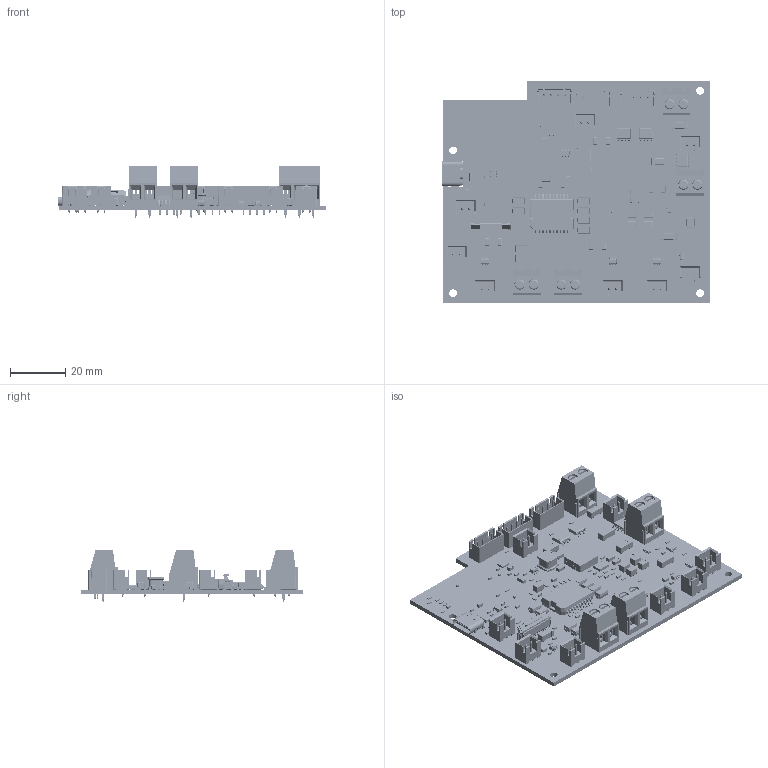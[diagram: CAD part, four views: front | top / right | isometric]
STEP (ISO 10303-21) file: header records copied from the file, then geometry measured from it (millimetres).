
FILE_DESCRIPTION(('Designed by EasyEDA Pro'),'2;1');
FILE_NAME('Open CASCADE Shape Model','2026-11-24T14:27:20',('Author'),( 'Open CASCADE'),'Open CASCADE STEP processor 7.8','Open CASCADE 7.8' ,'Unknown');
FILE_SCHEMA(('AUTOMOTIVE_DESIGN { 1 0 10303 214 1 1 1 1 }'));
Length unit declared in the file: millimetre
Products named in the file (185): EasyEDA PCB Model~psx2; Board~psx2; TopCopper~psx2; BottomCopper~psx2; TopSilkscreen~psx2; BottomSilkscreen~psx2; TopFpcStiffener~psx2; BottomFpcStiffener~psx2; U15~VSSOP-8_L2.3-W2.0-P0.50-LS3.1-BL~VSSOP-8_L2.3-W2.0-P0.50-LS3.1-BR~psx2; VSSOP-8_L2.3-W2.0-P0.50-LS3.1-BL~VSSOP-8_L2.3-W2.0-P0.50-LS3.1-BR~psx2; U1~WIRELM-SMD_ESP32-S3-WROOM-1~WIRELM-SMD_ESP32-S3-WROOM-1~psx2; WIRELM-SMD_ESP32-S3-WROOM-1~WIRELM-SMD_ESP32-S3-WROOM-1~psx2; U12~TSSOP-24_L7.8-W4.4-P0.65-LS6.4-BL~TSSOP-24_L7.8-W4.4-H1.0-LS6.4-P0.65~psx2; TSSOP-24_L7.8-W4.4-P0.65-LS6.4-BL~TSSOP-24_L7.8-W4.4-H1.0-LS6.4-P0.65~psx2; U13~TSSOP-24_L7.8-W4.4-P0.65-LS6.4-BL~TSSOP-24_L7.8-W4.4-H1.0-LS6.4-P0.65~psx2; U14~TSSOP-24_L7.8-W4.4-P0.65-LS6.4-BL~TSSOP-24_L7.8-W4.4-H1.0-LS6.4-P0.65~psx2; C0603~C0603_L1.6-W0.8-H0.8~pItV; C1~C0603~C0603_L1.6-W0.8-H0.8~kbKH; C2~C0603~C0603_L1.6-W0.8-H0.8~EPVK; C4~C0603~C0603_L1.6-W0.8-H0.8~HmHC; C6~C0603~C0603_L1.6-W0.8-H0.8~TumT; C24~C0603~C0603_L1.6-W0.8-H0.8~DVxA; C26~C0603~C0603_L1.6-W0.8-H0.8~cTV6; C8~C0603~C0603_L1.6-W0.8-H0.8~hTW6; C9~C0603~C0603_L1.6-W0.8-H0.8~n9op; C14~C0603~C0603_L1.6-W0.8-H0.8~sPoE; C15~C0603~C0603_L1.6-W0.8-H0.8~ZlTX; C16~C0603~C0603_L1.6-W0.8-H0.8~Dmbz; C18~C0603~C0603_L1.6-W0.8-H0.8~TvMz; C19~C0603~C0603_L1.6-W0.8-H0.8~hQYU; C38~C0603~C0603_L1.6-W0.8-H0.8~aAgY; C40~C0603~C0603_L1.6-W0.8-H0.8~Q447; C42~C0603~C0603_L1.6-W0.8-H0.8~ZxEF; C44~C0603~C0603_L1.6-W0.8-H0.8~RXXg; C45~C0603~C0603_L1.6-W0.8-H0.8~e8wV; C46~C0603~C0603_L1.6-W0.8-H0.8~Q5SK; C47~C0603~C0603_L1.6-W0.8-H0.8~cwZn; C48~C0603~C0603_L1.6-W0.8-H0.8~DxKa; C49~C0603~C0603_L1.6-W0.8-H0.8~25AL; C50~C0603~C0603_L1.6-W0.8-H0.8~Opwa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
Assembly tree (307 placements, depth 3):
  EasyEDA PCB Model~psx2
    Board~psx2
    TopCopper~psx2
    BottomCopper~psx2
    TopSilkscreen~psx2
    BottomSilkscreen~psx2
    TopFpcStiffener~psx2
    BottomFpcStiffener~psx2
    U15~VSSOP-8_L2.3-W2.0-P0.50-LS3.1-BL~VSSOP-8_L2.3-W2.0-P0.50-LS3.1-BR~psx2
      VSSOP-8_L2.3-W2.0-P0.50-LS3.1-BL~VSSOP-8_L2.3-W2.0-P0.50-LS3.1-BR~psx2
    U1~WIRELM-SMD_ESP32-S3-WROOM-1~WIRELM-SMD_ESP32-S3-WROOM-1~psx2
      WIRELM-SMD_ESP32-S3-WROOM-1~WIRELM-SMD_ESP32-S3-WROOM-1~psx2
    U12~TSSOP-24_L7.8-W4.4-P0.65-LS6.4-BL~TSSOP-24_L7.8-W4.4-H1.0-LS6.4-P0.65~psx2
      TSSOP-24_L7.8-W4.4-P0.65-LS6.4-BL~TSSOP-24_L7.8-W4.4-H1.0-LS6.4-P0.65~psx2
    U13~TSSOP-24_L7.8-W4.4-P0.65-LS6.4-BL~TSSOP-24_L7.8-W4.4-H1.0-LS6.4-P0.65~psx2
      TSSOP-24_L7.8-W4.4-P0.65-LS6.4-BL~TSSOP-24_L7.8-W4.4-H1.0-LS6.4-P0.65~psx2
    U14~TSSOP-24_L7.8-W4.4-P0.65-LS6.4-BL~TSSOP-24_L7.8-W4.4-H1.0-LS6.4-P0.65~psx2
      TSSOP-24_L7.8-W4.4-P0.65-LS6.4-BL~TSSOP-24_L7.8-W4.4-H1.0-LS6.4-P0.65~psx2
    C1~C0603~C0603_L1.6-W0.8-H0.8~kbKH
      C0603~C0603_L1.6-W0.8-H0.8~pItV
    C2~C0603~C0603_L1.6-W0.8-H0.8~EPVK
      C0603~C0603_L1.6-W0.8-H0.8~pItV
    C4~C0603~C0603_L1.6-W0.8-H0.8~HmHC
      C0603~C0603_L1.6-W0.8-H0.8~pItV
    C6~C0603~C0603_L1.6-W0.8-H0.8~TumT
      C0603~C0603_L1.6-W0.8-H0.8~pItV
    C24~C0603~C0603_L1.6-W0.8-H0.8~DVxA
      C0603~C0603_L1.6-W0.8-H0.8~pItV
    C26~C0603~C0603_L1.6-W0.8-H0.8~cTV6
      C0603~C0603_L1.6-W0.8-H0.8~pItV
    C8~C0603~C0603_L1.6-W0.8-H0.8~hTW6
      C0603~C0603_L1.6-W0.8-H0.8~pItV
    C9~C0603~C0603_L1.6-W0.8-H0.8~n9op
      C0603~C0603_L1.6-W0.8-H0.8~pItV
    C14~C0603~C0603_L1.6-W0.8-H0.8~sPoE
      C0603~C0603_L1.6-W0.8-H0.8~pItV
    C15~C0603~C0603_L1.6-W0.8-H0.8~ZlTX
      C0603~C0603_L1.6-W0.8-H0.8~pItV
    C16~C0603~C0603_L1.6-W0.8-H0.8~Dmbz
      C0603~C0603_L1.6-W0.8-H0.8~pItV
    C18~C0603~C0603_L1.6-W0.8-H0.8~TvMz
      C0603~C0603_L1.6-W0.8-H0.8~pItV
    C19~C0603~C0603_L1.6-W0.8-H0.8~hQYU
      C0603~C0603_L1.6-W0.8-H0.8~pItV
    C38~C0603~C0603_L1.6-W0.8-H0.8~aAgY
      C0603~C0603_L1.6-W0.8-H0.8~pItV
    C40~C0603~C0603_L1.6-W0.8-H0.8~Q447
      C0603~C0603_L1.6-W0.8-H0.8~pItV
    C42~C0603~C0603_L1.6-W0.8-H0.8~ZxEF
      C0603~C0603_L1.6-W0.8-H0.8~pItV
    C44~C0603~C0603_L1.6-W0.8-H0.8~RXXg
      C0603~C0603_L1.6-W0.8-H0.8~pItV
    C45~C0603~C0603_L1.6-W0.8-H0.8~e8wV
      C0603~C0603_L1.6-W0.8-H0.8~pItV
    C46~C0603~C0603_L1.6-W0.8-H0.8~Q5SK
      C0603~C0603_L1.6-W0.8-H0.8~pItV
    C47~C0603~C0603_L1.6-W0.8-H0.8~cwZn
      C0603~C0603_L1.6-W0.8-H0.8~pItV
    C48~C0603~C0603_L1.6-W0.8-H0.8~DxKa
      C0603~C0603_L1.6-W0.8-H0.8~pItV
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Bounding box: 96.41 x 79.97 x 18.4 mm (x, y, z)
Volume: 19336.9 mm3; surface area: 33105.4 mm2
Topology: 730 solids, 730 shells, 52092 faces, 138311 edges, 89996 vertices
Faces by surface type: plane 30351, bspline 15689, cylinder 4552, sphere 934, torus 534, cone 32
Entity records: 540484 total; most frequent: CARTESIAN_POINT 126654, ORIENTED_EDGE 62986, DIRECTION 48135, EDGE_CURVE 31493, LINE 21589, VECTOR 21589, VERTEX_POINT 20217, AXIS2_PLACEMENT_3D 13273
